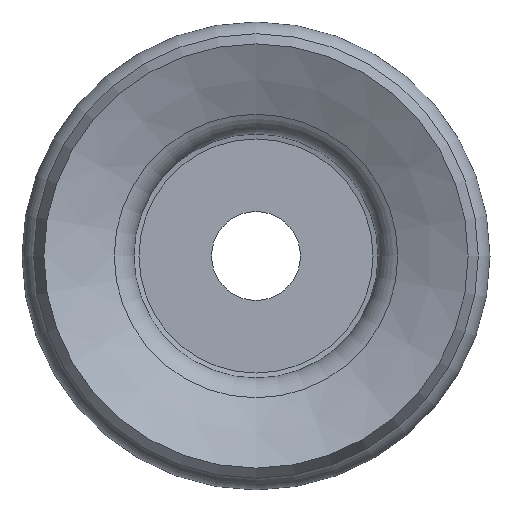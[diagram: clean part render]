
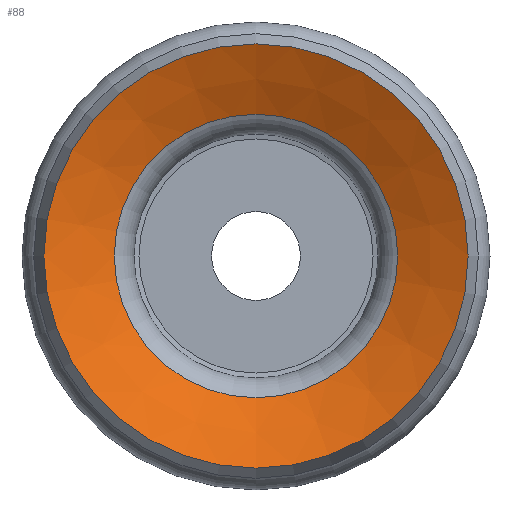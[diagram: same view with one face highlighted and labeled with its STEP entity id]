
A CAD part, front view. The second image highlights one B-rep face of the part: STEP entity #88.
In plain terms, the highlighted conical face has half-angle 64.277 degrees and reference radius 9.066 mm.
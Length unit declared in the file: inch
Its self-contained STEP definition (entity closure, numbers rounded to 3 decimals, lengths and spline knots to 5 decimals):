
#11 = ORIENTED_EDGE ( 'NONE', *, *, #247, .T. ) ;
#18 = CARTESIAN_POINT ( 'NONE',  ( 50.75156, 36.92723, 0. ) ) ;
#20 = DIRECTION ( 'NONE',  ( 0., -1., 0. ) ) ;
#35 = CARTESIAN_POINT ( 'NONE',  ( 50.75156, 36.98426, -0.23854 ) ) ;
#42 = CIRCLE ( 'NONE', #282, 0.35693 ) ;
#62 = CIRCLE ( 'NONE', #194, 0.23854 ) ;
#68 = EDGE_CURVE ( 'NONE', #376, #376, #62, .T. ) ;
#88 = ADVANCED_FACE ( 'NONE', ( #270, #280 ), #295, .F. ) ;
#123 = DIRECTION ( 'NONE',  ( 0., 0., -1. ) ) ;
#141 = EDGE_LOOP ( 'NONE', ( #181 ) ) ;
#181 = ORIENTED_EDGE ( 'NONE', *, *, #68, .F. ) ;
#185 = CARTESIAN_POINT ( 'NONE',  ( 50.75156, 36.92723, 0. ) ) ;
#186 = VERTEX_POINT ( 'NONE', #223 ) ;
#194 = AXIS2_PLACEMENT_3D ( 'NONE', #195, #20, #231 ) ;
#195 = CARTESIAN_POINT ( 'NONE',  ( 50.75156, 36.98426, 0. ) ) ;
#223 = CARTESIAN_POINT ( 'NONE',  ( 50.75156, 36.92723, -0.35693 ) ) ;
#231 = DIRECTION ( 'NONE',  ( 0., 0., -1. ) ) ;
#247 = EDGE_CURVE ( 'NONE', #186, #186, #42, .T. ) ;
#261 = DIRECTION ( 'NONE',  ( 0., 0., -1. ) ) ;
#270 = FACE_BOUND ( 'NONE', #141, .T. ) ;
#280 = FACE_OUTER_BOUND ( 'NONE', #364, .T. ) ;
#282 = AXIS2_PLACEMENT_3D ( 'NONE', #185, #305, #123 ) ;
#295 = CONICAL_SURFACE ( 'NONE', #310, 0.35693, 1.122 ) ;
#305 = DIRECTION ( 'NONE',  ( 0., -1., 0. ) ) ;
#310 = AXIS2_PLACEMENT_3D ( 'NONE', #18, #370, #261 ) ;
#364 = EDGE_LOOP ( 'NONE', ( #11 ) ) ;
#370 = DIRECTION ( 'NONE',  ( 0., -1., 0. ) ) ;
#376 = VERTEX_POINT ( 'NONE', #35 ) ;
